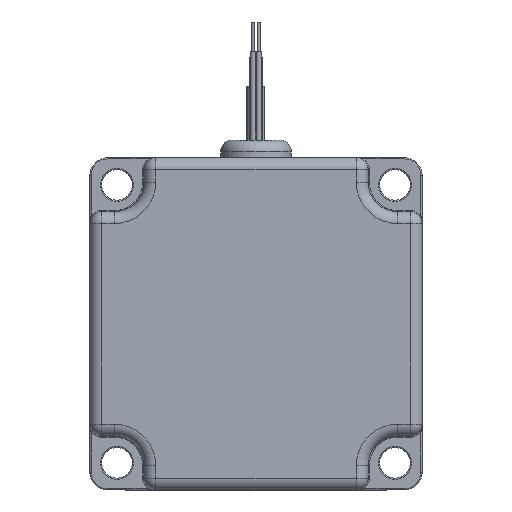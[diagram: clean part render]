
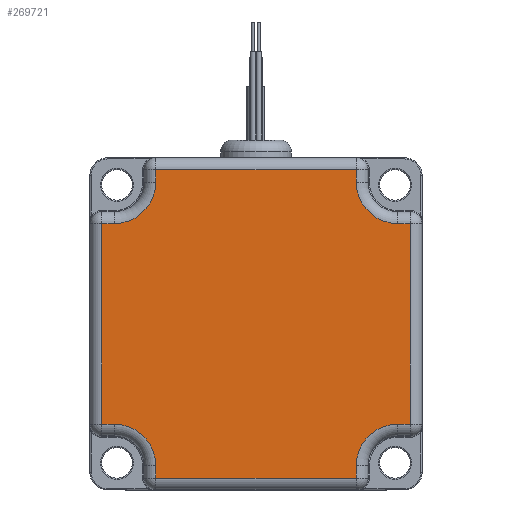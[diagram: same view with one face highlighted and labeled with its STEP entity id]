
A CAD part, front view. The second image highlights one B-rep face of the part: STEP entity #269721.
In plain terms, the highlighted planar face has unit normal (0, -1, 0).
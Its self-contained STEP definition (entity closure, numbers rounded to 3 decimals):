
#2373 = AXIS2_PLACEMENT_3D ( 'NONE', #36545, #198841, #20007 ) ;
#7057 = AXIS2_PLACEMENT_3D ( 'NONE', #282301, #264353, #60479 ) ;
#13402 = CARTESIAN_POINT ( 'NONE',  ( -17., -40., 26.15 ) ) ;
#14315 = CARTESIAN_POINT ( 'NONE',  ( 17., -40., 26.15 ) ) ;
#15478 = DIRECTION ( 'NONE',  ( 0., 0., 1. ) ) ;
#19565 = VECTOR ( 'NONE', #196272, 1000. ) ;
#20007 = DIRECTION ( 'NONE',  ( 0., 0., -1. ) ) ;
#22636 = EDGE_CURVE ( 'NONE', #30112, #241101, #128785, .T. ) ;
#28872 = CARTESIAN_POINT ( 'NONE',  ( 17., -40., 28.15 ) ) ;
#29291 = VERTEX_POINT ( 'NONE', #14315 ) ;
#29313 = DIRECTION ( 'NONE',  ( 0., 0., -1. ) ) ;
#30112 = VERTEX_POINT ( 'NONE', #235338 ) ;
#31656 = EDGE_CURVE ( 'NONE', #209214, #72213, #188183, .T. ) ;
#32865 = DIRECTION ( 'NONE',  ( 0., 0., -1. ) ) ;
#33149 = CARTESIAN_POINT ( 'NONE',  ( 17., -40., 24. ) ) ;
#33497 = DIRECTION ( 'NONE',  ( 1., 0., 0. ) ) ;
#36545 = CARTESIAN_POINT ( 'NONE',  ( -24., -40., 24. ) ) ;
#37133 = CARTESIAN_POINT ( 'NONE',  ( 17., -40., -26.15 ) ) ;
#39333 = CARTESIAN_POINT ( 'NONE',  ( 26.15, -40., 0. ) ) ;
#41555 = ORIENTED_EDGE ( 'NONE', *, *, #170024, .T. ) ;
#41813 = VERTEX_POINT ( 'NONE', #13402 ) ;
#41997 = DIRECTION ( 'NONE',  ( 0., 1., 0. ) ) ;
#51452 = DIRECTION ( 'NONE',  ( 0., 0., 1. ) ) ;
#51710 = LINE ( 'NONE', #233390, #164981 ) ;
#54864 = CIRCLE ( 'NONE', #2373, 7. ) ;
#56298 = CARTESIAN_POINT ( 'NONE',  ( -24., -40., 17. ) ) ;
#56929 = CARTESIAN_POINT ( 'NONE',  ( 26.15, -40., -17. ) ) ;
#57061 = VECTOR ( 'NONE', #119863, 1000. ) ;
#59308 = CARTESIAN_POINT ( 'NONE',  ( 0., -40., -17. ) ) ;
#59656 = LINE ( 'NONE', #195165, #75306 ) ;
#59813 = CARTESIAN_POINT ( 'NONE',  ( 0., -40., 0. ) ) ;
#60479 = DIRECTION ( 'NONE',  ( 0., 0., -1. ) ) ;
#64748 = CARTESIAN_POINT ( 'NONE',  ( 24., -40., 17. ) ) ;
#65761 = CIRCLE ( 'NONE', #275036, 7. ) ;
#65884 = CARTESIAN_POINT ( 'NONE',  ( -17., -40., -26.15 ) ) ;
#68797 = DIRECTION ( 'NONE',  ( 0., 0., -1. ) ) ;
#72213 = VERTEX_POINT ( 'NONE', #156605 ) ;
#73521 = VERTEX_POINT ( 'NONE', #56298 ) ;
#75306 = VECTOR ( 'NONE', #32865, 1000. ) ;
#77804 = DIRECTION ( 'NONE',  ( 0., 0., -1. ) ) ;
#78306 = DIRECTION ( 'NONE',  ( -1., 0., 0. ) ) ;
#81245 = ORIENTED_EDGE ( 'NONE', *, *, #220237, .T. ) ;
#84550 = DIRECTION ( 'NONE',  ( 1., 0., 0. ) ) ;
#86493 = PLANE ( 'NONE',  #139190 ) ;
#92984 = EDGE_CURVE ( 'NONE', #282948, #183647, #177625, .T. ) ;
#93836 = VERTEX_POINT ( 'NONE', #65884 ) ;
#94554 = LINE ( 'NONE', #230038, #159482 ) ;
#95952 = EDGE_CURVE ( 'NONE', #241101, #261872, #192914, .T. ) ;
#96324 = ORIENTED_EDGE ( 'NONE', *, *, #205949, .T. ) ;
#97197 = CARTESIAN_POINT ( 'NONE',  ( 24., -40., 24. ) ) ;
#101426 = AXIS2_PLACEMENT_3D ( 'NONE', #97197, #188074, #77804 ) ;
#103384 = EDGE_CURVE ( 'NONE', #117664, #73521, #54864, .T. ) ;
#107690 = VECTOR ( 'NONE', #139147, 1000. ) ;
#109362 = ORIENTED_EDGE ( 'NONE', *, *, #243442, .T. ) ;
#111565 = ORIENTED_EDGE ( 'NONE', *, *, #22636, .T. ) ;
#115709 = CIRCLE ( 'NONE', #101426, 7. ) ;
#117664 = VERTEX_POINT ( 'NONE', #265278 ) ;
#119863 = DIRECTION ( 'NONE',  ( 0., 0., 1. ) ) ;
#128785 = LINE ( 'NONE', #192876, #137276 ) ;
#130965 = CARTESIAN_POINT ( 'NONE',  ( 17., -40., -24. ) ) ;
#131427 = CARTESIAN_POINT ( 'NONE',  ( -26.15, -40., -19. ) ) ;
#135557 = EDGE_LOOP ( 'NONE', ( #183594, #226349, #109362, #81245, #111565, #244339, #241033, #138219, #193854, #41555, #228169, #194614, #96324, #224123, #242189, #176952 ) ) ;
#137276 = VECTOR ( 'NONE', #33497, 1000. ) ;
#138219 = ORIENTED_EDGE ( 'NONE', *, *, #203781, .T. ) ;
#138651 = EDGE_CURVE ( 'NONE', #72213, #93836, #59656, .T. ) ;
#139147 = DIRECTION ( 'NONE',  ( -1., 0., 0. ) ) ;
#139190 = AXIS2_PLACEMENT_3D ( 'NONE', #59813, #173036, #266634 ) ;
#140578 = CARTESIAN_POINT ( 'NONE',  ( -28.15, -40., 17. ) ) ;
#141610 = CARTESIAN_POINT ( 'NONE',  ( -24., -40., -17. ) ) ;
#142203 = DIRECTION ( 'NONE',  ( -1., 0., 0. ) ) ;
#143049 = EDGE_CURVE ( 'NONE', #261872, #171327, #261304, .T. ) ;
#147844 = VECTOR ( 'NONE', #15478, 1000. ) ;
#154749 = EDGE_CURVE ( 'NONE', #235446, #29291, #241365, .T. ) ;
#156605 = CARTESIAN_POINT ( 'NONE',  ( -17., -40., -24. ) ) ;
#159482 = VECTOR ( 'NONE', #142203, 1000. ) ;
#160676 = VECTOR ( 'NONE', #220736, 1000. ) ;
#164668 = LINE ( 'NONE', #279210, #292326 ) ;
#164981 = VECTOR ( 'NONE', #29313, 1000. ) ;
#170024 = EDGE_CURVE ( 'NONE', #29291, #41813, #94554, .T. ) ;
#171327 = VERTEX_POINT ( 'NONE', #64748 ) ;
#171839 = CARTESIAN_POINT ( 'NONE',  ( 24., -40., -24. ) ) ;
#173036 = DIRECTION ( 'NONE',  ( 0., -1., 0. ) ) ;
#176952 = ORIENTED_EDGE ( 'NONE', *, *, #31656, .T. ) ;
#177625 = LINE ( 'NONE', #131427, #160676 ) ;
#177979 = VECTOR ( 'NONE', #78306, 1000. ) ;
#183594 = ORIENTED_EDGE ( 'NONE', *, *, #138651, .T. ) ;
#183647 = VERTEX_POINT ( 'NONE', #222740 ) ;
#185222 = VERTEX_POINT ( 'NONE', #130965 ) ;
#186566 = EDGE_CURVE ( 'NONE', #93836, #191346, #269041, .T. ) ;
#188074 = DIRECTION ( 'NONE',  ( 0., 1., 0. ) ) ;
#188183 = CIRCLE ( 'NONE', #7057, 7. ) ;
#191346 = VERTEX_POINT ( 'NONE', #37133 ) ;
#192876 = CARTESIAN_POINT ( 'NONE',  ( 28.15, -40., -17. ) ) ;
#192914 = LINE ( 'NONE', #39333, #147844 ) ;
#193854 = ORIENTED_EDGE ( 'NONE', *, *, #154749, .T. ) ;
#194614 = ORIENTED_EDGE ( 'NONE', *, *, #103384, .T. ) ;
#195165 = CARTESIAN_POINT ( 'NONE',  ( -17., -40., -28.15 ) ) ;
#196272 = DIRECTION ( 'NONE',  ( 1., 0., 0. ) ) ;
#198841 = DIRECTION ( 'NONE',  ( 0., 1., 0. ) ) ;
#203781 = EDGE_CURVE ( 'NONE', #171327, #235446, #115709, .T. ) ;
#205949 = EDGE_CURVE ( 'NONE', #73521, #282948, #226938, .T. ) ;
#208047 = CARTESIAN_POINT ( 'NONE',  ( -26.15, -40., 17. ) ) ;
#209214 = VERTEX_POINT ( 'NONE', #141610 ) ;
#220237 = EDGE_CURVE ( 'NONE', #185222, #30112, #65761, .T. ) ;
#220736 = DIRECTION ( 'NONE',  ( 0., 0., -1. ) ) ;
#222740 = CARTESIAN_POINT ( 'NONE',  ( -26.15, -40., -17. ) ) ;
#224123 = ORIENTED_EDGE ( 'NONE', *, *, #92984, .T. ) ;
#226349 = ORIENTED_EDGE ( 'NONE', *, *, #186566, .T. ) ;
#226938 = LINE ( 'NONE', #140578, #107690 ) ;
#228169 = ORIENTED_EDGE ( 'NONE', *, *, #267372, .T. ) ;
#230038 = CARTESIAN_POINT ( 'NONE',  ( 0., -40., 26.15 ) ) ;
#233390 = CARTESIAN_POINT ( 'NONE',  ( -17., -40., 0. ) ) ;
#233503 = EDGE_CURVE ( 'NONE', #183647, #209214, #242335, .T. ) ;
#235338 = CARTESIAN_POINT ( 'NONE',  ( 24., -40., -17. ) ) ;
#235446 = VERTEX_POINT ( 'NONE', #33149 ) ;
#241033 = ORIENTED_EDGE ( 'NONE', *, *, #143049, .T. ) ;
#241101 = VERTEX_POINT ( 'NONE', #56929 ) ;
#241365 = LINE ( 'NONE', #28872, #57061 ) ;
#242189 = ORIENTED_EDGE ( 'NONE', *, *, #233503, .T. ) ;
#242335 = LINE ( 'NONE', #59308, #19565 ) ;
#243442 = EDGE_CURVE ( 'NONE', #191346, #185222, #164668, .T. ) ;
#244339 = ORIENTED_EDGE ( 'NONE', *, *, #95952, .T. ) ;
#250335 = VECTOR ( 'NONE', #84550, 1000. ) ;
#254868 = FACE_OUTER_BOUND ( 'NONE', #135557, .T. ) ;
#261304 = LINE ( 'NONE', #282190, #177979 ) ;
#261872 = VERTEX_POINT ( 'NONE', #290001 ) ;
#264353 = DIRECTION ( 'NONE',  ( 0., 1., 0. ) ) ;
#265278 = CARTESIAN_POINT ( 'NONE',  ( -17., -40., 24. ) ) ;
#266634 = DIRECTION ( 'NONE',  ( 0., 0., -1. ) ) ;
#267372 = EDGE_CURVE ( 'NONE', #41813, #117664, #51710, .T. ) ;
#269041 = LINE ( 'NONE', #288353, #250335 ) ;
#269721 = ADVANCED_FACE ( 'NONE', ( #254868 ), #86493, .T. ) ;
#275036 = AXIS2_PLACEMENT_3D ( 'NONE', #171839, #41997, #68797 ) ;
#279210 = CARTESIAN_POINT ( 'NONE',  ( 17., -40., 0. ) ) ;
#282190 = CARTESIAN_POINT ( 'NONE',  ( 0., -40., 17. ) ) ;
#282301 = CARTESIAN_POINT ( 'NONE',  ( -24., -40., -24. ) ) ;
#282948 = VERTEX_POINT ( 'NONE', #208047 ) ;
#288353 = CARTESIAN_POINT ( 'NONE',  ( 19., -40., -26.15 ) ) ;
#290001 = CARTESIAN_POINT ( 'NONE',  ( 26.15, -40., 17. ) ) ;
#292326 = VECTOR ( 'NONE', #51452, 1000. ) ;
